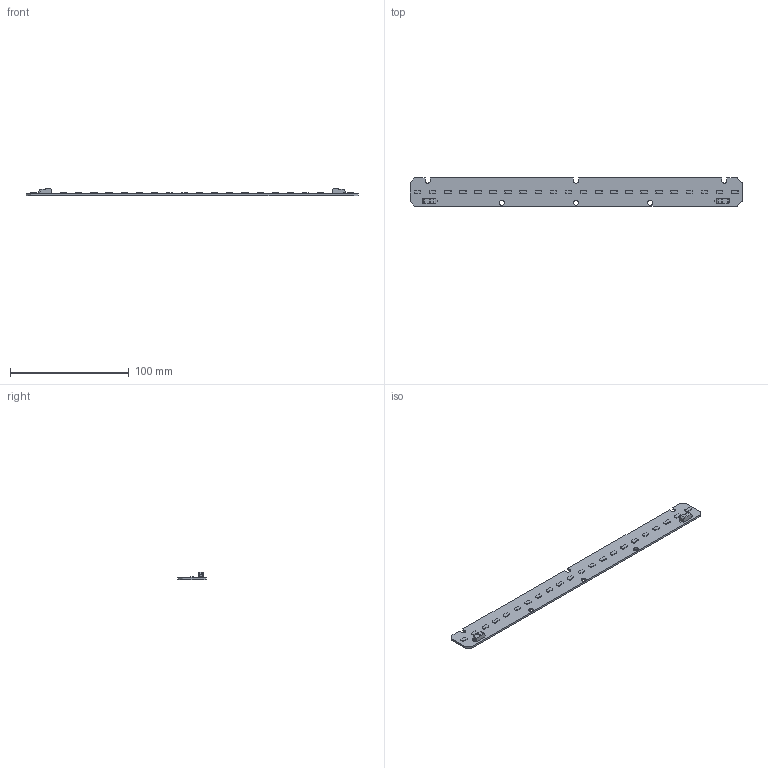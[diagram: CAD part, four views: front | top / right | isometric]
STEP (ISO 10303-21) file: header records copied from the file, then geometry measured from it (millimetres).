
FILE_DESCRIPTION((''),'2;1');
FILE_NAME('15008620Z_LLE_280_E','2014-07-18T',('juergen.hrach'),(''),'PRO/ENGINEER BY PARAMETRIC TECHNOLOGY CORPORATION, 2014000','PRO/ENGINEER BY PARAMETRIC TECHNOLOGY CORPORATION, 2014000','');
FILE_SCHEMA(('AUTOMOTIVE_DESIGN { 1 0 10303 214 1 1 1 1 }'));
Length unit declared in the file: millimetre
Products named in the file (1): 15008620Z_LLE_280_E
Bounding box: 279.7 x 23.8 x 6.05 mm (x, y, z)
Volume: 11087.8 mm3; surface area: 15588.1 mm2
Topology: 25 solids, 25 shells, 508 faces, 1370 edges, 912 vertices
Faces by surface type: plane 381, cylinder 127
Entity records: 20557 total; most frequent: CARTESIAN_POINT 2876, ORIENTED_EDGE 2740, DIRECTION 2612, PRESENTATION_STYLE_ASSIGNMENT 1395, STYLED_ITEM 1395, CURVE_STYLE 1370, EDGE_CURVE 1370, VECTOR 1108
